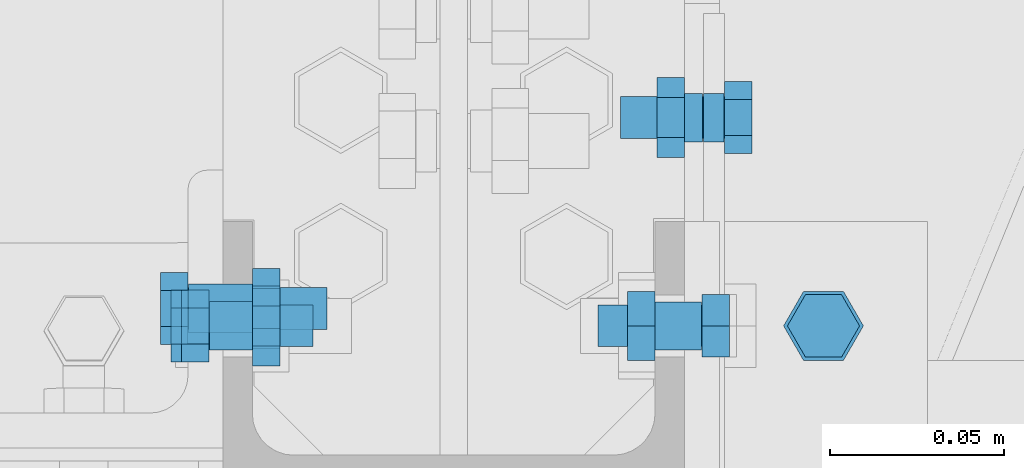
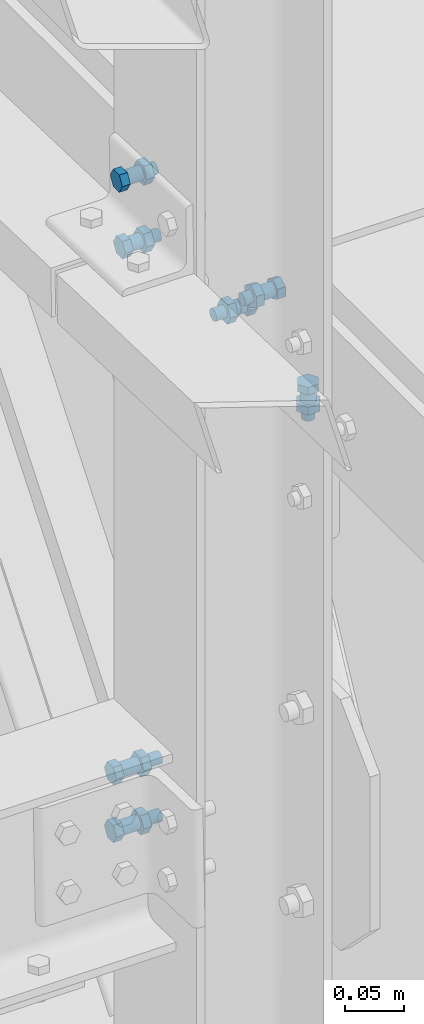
# One storey, part 251 of 362: 7 mechanical fasteners.
"""IFC2X3 building model written with IfcOpenShell, lengths in millimetres."""

from ifc_helpers import new_model, si_unit, frame, origin_with_axes, origin_2d_with_axis, place, context, subcontext, project, spatial, polyline, circle, outline, extrude, source, transform, mapped, material, type_object, element, save


model = new_model("IFC2X3")

# Units and contexts
model_context = context("Model", 3, precision=1e-05, world=origin_with_axes())
body_context = subcontext(model_context, "Body", "Model", "MODEL_VIEW")
ifc_project = project(units=[si_unit("LENGTHUNIT", "METRE", prefix="MILLI"), si_unit("AREAUNIT", "SQUARE_METRE"), si_unit("VOLUMEUNIT", "CUBIC_METRE"), si_unit("MASSUNIT", "GRAM", prefix="KILO"), si_unit("TIMEUNIT", "SECOND"), si_unit("PLANEANGLEUNIT", "RADIAN"), si_unit("SOLIDANGLEUNIT", "STERADIAN"), si_unit("THERMODYNAMICTEMPERATUREUNIT", "DEGREE_CELSIUS"), si_unit("LUMINOUSINTENSITYUNIT", "LUMEN")], contexts=[model_context])

# Site, building, storey
site_placement = place(None, origin_with_axes())
site = spatial("IfcSite", under=ifc_project, at=site_placement, Name="Undefined", CompositionType="ELEMENT")
building_placement = place(site_placement, origin_with_axes())
building = spatial("IfcBuilding", under=site, at=building_placement, Name="Undefined", CompositionType="ELEMENT")
storey_placement = place(building_placement, origin_with_axes())
storey = spatial("IfcBuildingStorey", under=building, at=storey_placement, Name="Undefined", CompositionType="ELEMENT", Elevation=0.0)

# Mechanical fasteners
ifc_material = material(Name="8.8-SB-ZINGUE")
mechanical_fastener_type = type_object("IfcMechanicalFastenerType", Name="Bolt assembly")
shared_shape_1 = source(origin_with_axes(), body_context, "Body", "SweptSolid", [
    extrude(circle(Radius=7.0, at=origin_2d_with_axis()), frame((0.0, -4.90000000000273, 0.0), z_axis=(0.0, 1.0, 0.0), x_axis=(1.0, 0.0, 0.0)), (0.0, 0.0, 1.0), 5.0),
    extrude(circle(Radius=7.0, at=origin_2d_with_axis()), frame((0.0, -0.100011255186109, 0.0), z_axis=(0.0, 1.0, 0.0), x_axis=(1.0, 0.0, 0.0)), (0.0, 0.0, 1.0), 7.1),
    extrude(outline(polyline([(10.39230484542, 0.0), (5.19615242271, 9.00000000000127), (-5.19615242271, 9.00000000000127), (-10.39230484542, 0.0), (-5.19615242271, -9.00000000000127), (5.19615242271, -9.00000000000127), (10.39230484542, 0.0)])), frame((0.0, -12.9200004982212, 0.0), z_axis=(0.0, 1.0, 0.0), x_axis=(1.0, 0.0, 0.0)), (0.0, 0.0, 1.0), 7.92),
    extrude(circle(Radius=6.0, at=origin_2d_with_axis()), frame((0.0, -5.00000000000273, 0.0), z_axis=(0.0, 1.0, 0.0), x_axis=(1.0, 0.0, 0.0)), (0.0, 0.0, 1.0), 30.0),
    extrude(outline(polyline([(11.5008173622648, 0.0), (5.7504086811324, 9.96000000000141), (-5.7504086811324, 9.96000000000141), (-11.5008173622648, 0.0), (-5.7504086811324, -9.96000000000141), (5.7504086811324, -9.96000000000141), (11.5008173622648, 0.0)])), frame((0.0, 7.0, 0.0), z_axis=(0.0, 1.0, 0.0), x_axis=(1.0, 0.0, 0.0)), (0.0, 0.0, 1.0), 7.92),
])
mechanical_fastener_1_placement = place(storey_placement, frame((12786.5082291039, 11439.9999999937, 7950.00000000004), z_axis=(0.0, -1.0, 0.0), x_axis=(-1.0, 0.0, 0.0)))
element("IfcMechanicalFastener", 1, at=mechanical_fastener_1_placement, inside=storey, type_object=mechanical_fastener_type, material=ifc_material, Name="Bolt assembly", NominalDiameter=12.0, NominalLength=30.0, context=body_context, shape_type="MappedRepresentation", body=[
    mapped(shared_shape_1, transform((0.0, 0.0, 0.0))),
])
shared_shape_2 = source(origin_with_axes(), body_context, "Body", "SweptSolid", [
    extrude(circle(Radius=7.0, at=origin_2d_with_axis()), frame((0.0, -0.100011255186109, 0.0), z_axis=(0.0, 1.0, 0.0), x_axis=(1.0, 0.0, 0.0)), (0.0, 0.0, 1.0), 8.6),
    extrude(circle(Radius=7.0, at=origin_2d_with_axis()), frame((0.0, -6.9, 0.0), z_axis=(0.0, 1.0, 0.0), x_axis=(1.0, 0.0, 0.0)), (0.0, 0.0, 1.0), 7.0),
    extrude(outline(polyline([(10.39230484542, 0.0), (5.19615242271, 9.00000000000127), (-5.19615242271, 9.00000000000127), (-10.39230484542, 0.0), (-5.19615242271, -9.00000000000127), (5.19615242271, -9.00000000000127), (10.39230484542, 0.0)])), frame((0.0, -14.92, 0.0), z_axis=(0.0, 1.0, 0.0), x_axis=(1.0, 0.0, 0.0)), (0.0, 0.0, 1.0), 7.92),
    extrude(circle(Radius=6.0, at=origin_2d_with_axis()), frame((0.0, -7.0, 0.0), z_axis=(0.0, 1.0, 0.0), x_axis=(1.0, 0.0, 0.0)), (0.0, 0.0, 1.0), 30.0),
    extrude(outline(polyline([(11.5008173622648, 0.0), (5.7504086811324, 9.96000000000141), (-5.7504086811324, 9.96000000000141), (-11.5008173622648, 0.0), (-5.7504086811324, -9.96000000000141), (5.7504086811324, -9.96000000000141), (11.5008173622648, 0.0)])), frame((0.0, 8.49999994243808, 0.0), z_axis=(0.0, 1.0, 0.0), x_axis=(1.0, 0.0, 0.0)), (0.0, 0.0, 1.0), 7.92),
])
mechanical_fastener_2_placement = place(storey_placement, frame((12613.5000000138, 11439.999998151, 8235.76366746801), z_axis=(0.0, 0.0, -1.0), x_axis=(0.0, 1.0, 0.0)))
element("IfcMechanicalFastener", 2, at=mechanical_fastener_2_placement, inside=storey, type_object=mechanical_fastener_type, material=ifc_material, Name="Bolt assembly", NominalDiameter=12.0, NominalLength=30.0, context=body_context, shape_type="MappedRepresentation", body=[
    mapped(shared_shape_2, transform((0.0, 0.0, 0.0))),
])
shared_shape_3 = source(origin_with_axes(), body_context, "Body", "SweptSolid", [
    extrude(circle(Radius=7.0, at=origin_2d_with_axis()), frame((0.0, -0.108038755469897, 0.0), z_axis=(0.0, 1.0, 0.0), x_axis=(1.0, 0.0, 0.0)), (0.0, 0.0, 1.0), 5.1),
    extrude(circle(Radius=7.0, at=origin_2d_with_axis()), frame((0.0, -6.4, 0.0), z_axis=(0.0, 1.0, 0.0), x_axis=(1.0, 0.0, 0.0)), (0.0, 0.0, 1.0), 6.0),
    extrude(outline(polyline([(10.39230484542, 0.0), (5.19615242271, 9.00000000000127), (-5.19615242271, 9.00000000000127), (-10.39230484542, 0.0), (-5.19615242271, -9.00000000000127), (5.19615242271, -9.00000000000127), (10.39230484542, 0.0)])), frame((0.0, -14.42, 0.0), z_axis=(0.0, 1.0, 0.0), x_axis=(1.0, 0.0, 0.0)), (0.0, 0.0, 1.0), 7.92),
    extrude(circle(Radius=6.0, at=origin_2d_with_axis()), frame((0.0, -6.5, 0.0), z_axis=(0.0, 1.0, 0.0), x_axis=(1.0, 0.0, 0.0)), (0.0, 0.0, 1.0), 30.0),
    extrude(outline(polyline([(11.5008173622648, 0.0), (5.7504086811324, 9.96000000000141), (-5.7504086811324, 9.96000000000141), (-11.5008173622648, 0.0), (-5.7504086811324, -9.96000000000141), (5.7504086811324, -9.96000000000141), (11.5008173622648, 0.0)])), frame((0.0, 4.99194106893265, 0.0), z_axis=(0.0, 1.0, 0.0), x_axis=(1.0, 0.0, 0.0)), (0.0, 0.0, 1.0), 7.92),
])
mechanical_fastener_3_placement = place(storey_placement, frame((12751.5001144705, 11499.9999999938, 8015.00000000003), z_axis=(0.0, 0.0, -1.0), x_axis=(0.0, -1.0, 0.0)))
element("IfcMechanicalFastener", 3, at=mechanical_fastener_3_placement, inside=storey, type_object=mechanical_fastener_type, material=ifc_material, Name="Bolt assembly", NominalDiameter=12.0, NominalLength=30.0, context=body_context, shape_type="MappedRepresentation", body=[
    mapped(shared_shape_3, transform((0.0, 0.0, 0.0))),
])
shared_shape_4 = source(origin_with_axes(), body_context, "Body", "SweptSolid", [
    extrude(circle(Radius=7.0, at=origin_2d_with_axis()), frame((0.0, -0.0917710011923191, 0.0), z_axis=(0.0, 1.0, 0.0), x_axis=(1.0, 0.0, 0.0)), (0.0, 0.0, 1.0), 8.6),
    extrude(circle(Radius=7.0, at=origin_2d_with_axis()), frame((0.0, -4.89994333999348, 0.0), z_axis=(0.0, 1.0, 0.0), x_axis=(1.0, 0.0, 0.0)), (0.0, 0.0, 1.0), 5.0),
    extrude(outline(polyline([(10.39230484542, 0.0), (5.19615242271, 9.00000000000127), (-5.19615242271, 9.00000000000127), (-10.39230484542, 0.0), (-5.19615242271, -9.00000000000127), (5.19615242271, -9.00000000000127), (10.39230484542, 0.0)])), frame((0.0, -12.9199433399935, 0.0), z_axis=(0.0, 1.0, 0.0), x_axis=(1.0, 0.0, 0.0)), (0.0, 0.0, 1.0), 7.92),
    extrude(circle(Radius=6.0, at=origin_2d_with_axis()), frame((0.0, -4.99994333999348, 0.0), z_axis=(0.0, 1.0, 0.0), x_axis=(1.0, 0.0, 0.0)), (0.0, 0.0, 1.0), 30.0),
    extrude(outline(polyline([(11.5008173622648, 0.0), (5.7504086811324, 9.96000000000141), (-5.7504086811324, 9.96000000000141), (-11.5008173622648, 0.0), (-5.7504086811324, -9.96000000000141), (5.7504086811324, -9.96000000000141), (11.5008173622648, 0.0)])), frame((0.0, 8.50822899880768, 0.0), z_axis=(0.0, 1.0, 0.0), x_axis=(1.0, 0.0, 0.0)), (0.0, 0.0, 1.0), 7.92),
])
mechanical_fastener_4_placement = place(storey_placement, frame((12746.5082291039, 11440.0000009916, 8070.00000000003), z_axis=(0.0, 1.0, 0.0), x_axis=(0.0, 0.0, -1.0)))
element("IfcMechanicalFastener", 4, at=mechanical_fastener_4_placement, inside=storey, type_object=mechanical_fastener_type, material=ifc_material, Name="Bolt assembly", NominalDiameter=12.0, NominalLength=30.0, context=body_context, shape_type="MappedRepresentation", body=[
    mapped(shared_shape_4, transform((0.0, 0.0, 0.0))),
])
shared_shape_5 = source(origin_with_axes(), body_context, "Body", "SweptSolid", [
    extrude(circle(Radius=7.0, at=origin_2d_with_axis()), frame((0.0, -0.100011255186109, 0.0), z_axis=(0.0, 1.0, 0.0), x_axis=(1.0, 0.0, 0.0)), (0.0, 0.0, 1.0), 8.6),
    extrude(circle(Radius=7.0, at=origin_2d_with_axis()), frame((0.0, -3.89999843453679, 0.0), z_axis=(0.0, 1.0, 0.0), x_axis=(1.0, 0.0, 0.0)), (0.0, 0.0, 1.0), 4.0),
    extrude(outline(polyline([(10.39230484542, 0.0), (5.19615242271, 9.00000000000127), (-5.19615242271, 9.00000000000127), (-10.39230484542, 0.0), (-5.19615242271, -9.00000000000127), (5.19615242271, -9.00000000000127), (10.39230484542, 0.0)])), frame((0.0, -11.9199984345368, 0.0), z_axis=(0.0, 1.0, 0.0), x_axis=(1.0, 0.0, 0.0)), (0.0, 0.0, 1.0), 7.92),
    extrude(circle(Radius=6.0, at=origin_2d_with_axis()), frame((0.0, -3.99999923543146, 0.0), z_axis=(0.0, 1.0, 0.0), x_axis=(1.0, 0.0, 0.0)), (0.0, 0.0, 1.0), 30.0),
    extrude(outline(polyline([(11.5008173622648, 0.0), (5.7504086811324, 9.96000000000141), (-5.7504086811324, 9.96000000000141), (-11.5008173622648, 0.0), (-5.7504086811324, -9.96000000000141), (5.7504086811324, -9.96000000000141), (11.5008173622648, 0.0)])), frame((0.0, 8.49999994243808, 0.0), z_axis=(0.0, 1.0, 0.0), x_axis=(1.0, 0.0, 0.0)), (0.0, 0.0, 1.0), 7.92),
])
mechanical_fastener_5_placement = place(storey_placement, frame((12613.5000000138, 11439.999998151, 8165.72910347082), z_axis=(0.0, 0.0, -1.0), x_axis=(0.0, 1.0, 0.0)))
element("IfcMechanicalFastener", 5, at=mechanical_fastener_5_placement, inside=storey, type_object=mechanical_fastener_type, material=ifc_material, Name="Bolt assembly", NominalDiameter=12.0, NominalLength=30.0, context=body_context, shape_type="MappedRepresentation", body=[
    mapped(shared_shape_5, transform((0.0, 0.0, 0.0))),
])
shared_shape_6 = source(origin_with_axes(), body_context, "Body", "SweptSolid", [
    extrude(circle(Radius=7.0, at=origin_2d_with_axis()), frame((0.0, -0.100011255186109, 0.0), z_axis=(0.0, 1.0, 0.0), x_axis=(1.0, 0.0, 0.0)), (0.0, 0.0, 1.0), 8.6),
    extrude(circle(Radius=7.0, at=origin_2d_with_axis()), frame((0.0, -9.9, 0.0), z_axis=(0.0, 1.0, 0.0), x_axis=(1.0, 0.0, 0.0)), (0.0, 0.0, 1.0), 10.0),
    extrude(outline(polyline([(10.39230484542, 0.0), (5.19615242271, 9.00000000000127), (-5.19615242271, 9.00000000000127), (-10.39230484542, 0.0), (-5.19615242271, -9.00000000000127), (5.19615242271, -9.00000000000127), (10.39230484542, 0.0)])), frame((0.0, -17.92, 0.0), z_axis=(0.0, 1.0, 0.0), x_axis=(1.0, 0.0, 0.0)), (0.0, 0.0, 1.0), 7.92),
    extrude(circle(Radius=6.0, at=origin_2d_with_axis()), frame((0.0, -10.0000010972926, 0.0), z_axis=(0.0, 1.0, 0.0), x_axis=(1.0, 0.0, 0.0)), (0.0, 0.0, 1.0), 40.0),
    extrude(outline(polyline([(11.5008173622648, 0.0), (5.7504086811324, 9.96000000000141), (-5.7504086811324, 9.96000000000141), (-11.5008173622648, 0.0), (-5.7504086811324, -9.96000000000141), (5.7504086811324, -9.96000000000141), (11.5008173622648, 0.0)])), frame((0.0, 8.49999994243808, 0.0), z_axis=(0.0, 1.0, 0.0), x_axis=(1.0, 0.0, 0.0)), (0.0, 0.0, 1.0), 7.92),
])
for number, where, z_axis, x_axis, name in (
    (6, (12613.5000013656, 11444.9999999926, 7620.28999334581), (0.0, 0.0, -1.0), (0.0, 1.0, 0.0), "Bolt assembly"),
    (7, (12613.5000013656, 11444.9999999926, 7560.26037148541), (0.0, 0.0, -1.0), (0.0, 1.0, 0.0), "Bolt assembly"),
):
    element("IfcMechanicalFastener", number, at=place(storey_placement, frame(where, z_axis=z_axis, x_axis=x_axis)), inside=storey, type_object=mechanical_fastener_type, material=ifc_material, Name=name, NominalDiameter=12.0, NominalLength=40.0, context=body_context, shape_type="MappedRepresentation", body=[
        mapped(shared_shape_6, transform((0.0, 0.0, 0.0))),
    ])

save(model, "model.ifc")
